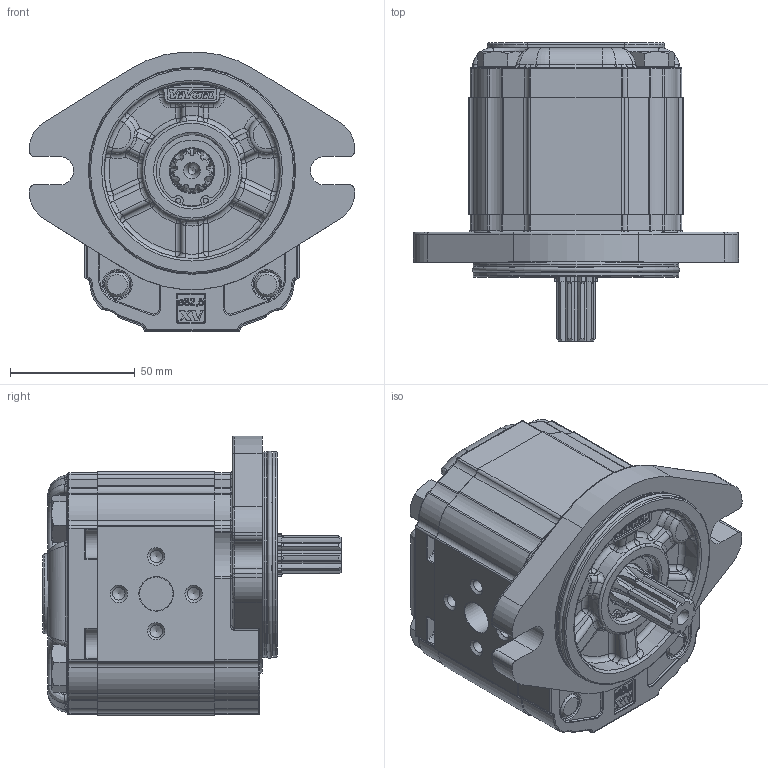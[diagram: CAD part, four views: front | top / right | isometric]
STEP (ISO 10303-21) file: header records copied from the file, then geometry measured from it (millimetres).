
FILE_DESCRIPTION(/* description */ ('Unknown'),/* implementation_level */ '2;1');
FILE_NAME(/* name */ 'X2M4131IOOE',/* time_stamp */ '2021-04-14T19:26:40+02:00',/* author */ ('Unknown'),/* organization */ ('Unknown'),/* preprocessor_version */ 'ST-DEVELOPER v16.7',/* originating_system */ 'Solid Edge',/* authorisation */ 'Unknown');
FILE_SCHEMA (('AUTOMOTIVE_DESIGN {1 0 10303 214 3 1 1}'));
Products named in the file (5): X2M4131IOOE; X2M31; 2I; X2OOH47; XM219-E
Assembly tree (4 placements, depth 2):
  X2M4131IOOE
    X2M31
    2I
    X2OOH47
    XM219-E
Bounding box: 130.38 x 119.7 x 112.3 mm (x, y, z)
Volume: 653304.6 mm3; surface area: 107127.2 mm2
Topology: 4 solids, 5 shells, 1576 faces, 3999 edges, 2497 vertices
Faces by surface type: plane 601, cylinder 442, bspline 210, torus 207, cone 90, sphere 26
Full cylindrical faces by diameter (mm): 2 x2, 4.917 x4, 5 x4, 11 x2, 11.445 x1, 11.5 x4, 13.5 x2, 16 x4, 17.42 x1, 18 x1, 20.595 x1, 23.332 x1, 25.834 x1, 28.5 x1, 28.56 x1, 28.57 x1, 28.8 x1, 30.4 x1, 79.6 x2, 82.5 x2
Entity records: 59622 total; most frequent: CARTESIAN_POINT 13001, ORIENTED_EDGE 7680, DIRECTION 7406, EDGE_CURVE 3840, AXIS2_PLACEMENT_3D 2748, VERTEX_POINT 2443, LINE 1910, VECTOR 1910
